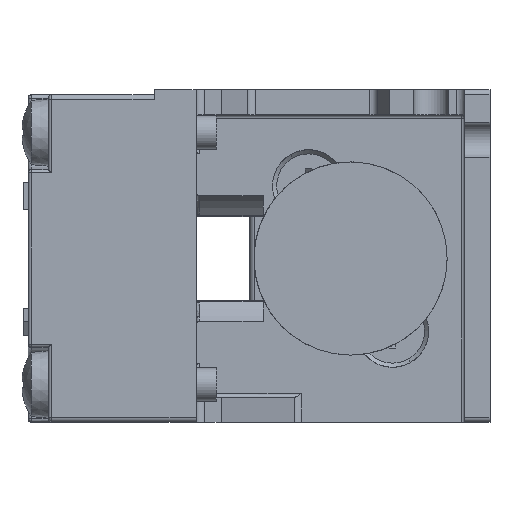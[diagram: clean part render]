
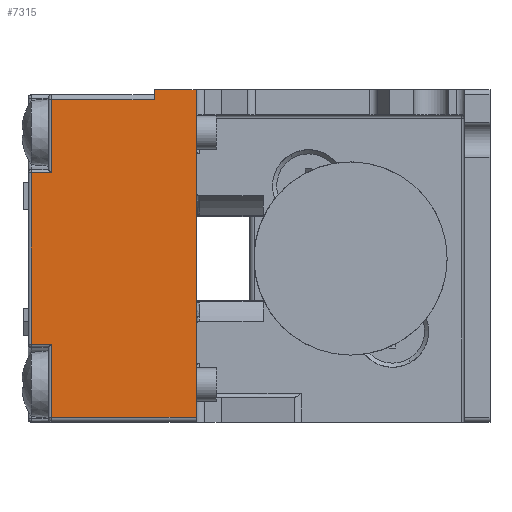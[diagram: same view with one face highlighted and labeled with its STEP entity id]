
A CAD part, left-side view. The second image highlights one B-rep face of the part: STEP entity #7315.
In plain terms, the highlighted planar face has unit normal (-1, 0, 0).
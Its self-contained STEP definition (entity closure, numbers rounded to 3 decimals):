
#273=DIRECTION('',(0.,1.,0.));
#274=VECTOR('',#273,6.1);
#275=CARTESIAN_POINT('',(-9.75,11.7,9.45));
#276=LINE('',#275,#274);
#281=DIRECTION('',(0.,0.,1.));
#282=VECTOR('',#281,0.6);
#283=CARTESIAN_POINT('',(-9.75,11.7,9.45));
#284=LINE('',#283,#282);
#285=DIRECTION('',(0.,0.,-1.));
#286=VECTOR('',#285,19.5);
#287=CARTESIAN_POINT('',(-9.75,9.2,10.05));
#288=LINE('',#287,#286);
#293=DIRECTION('',(0.,-1.,0.));
#294=VECTOR('',#293,8.6);
#295=CARTESIAN_POINT('',(-9.75,17.8,-9.45));
#296=LINE('',#295,#294);
#632=DIRECTION('',(0.,0.,-1.));
#633=VECTOR('',#632,10.2);
#634=CARTESIAN_POINT('',(-9.75,19.,5.1));
#635=LINE('',#634,#633);
#1655=DIRECTION('',(0.,1.,0.));
#1656=VECTOR('',#1655,2.5);
#1657=CARTESIAN_POINT('',(-9.75,9.2,10.05));
#1658=LINE('',#1657,#1656);
#4437=DIRECTION('',(0.,0.,-1.));
#4438=VECTOR('',#4437,4.35);
#4439=CARTESIAN_POINT('',(-9.75,17.8,9.45));
#4440=LINE('',#4439,#4438);
#4445=DIRECTION('',(0.,1.,0.));
#4446=VECTOR('',#4445,1.2);
#4447=CARTESIAN_POINT('',(-9.75,17.8,5.1));
#4448=LINE('',#4447,#4446);
#4821=DIRECTION('',(0.,-1.,0.));
#4822=VECTOR('',#4821,1.2);
#4823=CARTESIAN_POINT('',(-9.75,19.,-5.1));
#4824=LINE('',#4823,#4822);
#4829=DIRECTION('',(0.,0.,-1.));
#4830=VECTOR('',#4829,4.35);
#4831=CARTESIAN_POINT('',(-9.75,17.8,-5.1));
#4832=LINE('',#4831,#4830);
#5797=CARTESIAN_POINT('',(-9.75,11.7,9.45));
#5798=CARTESIAN_POINT('',(-9.75,17.8,9.45));
#5799=VERTEX_POINT('',#5797);
#5800=VERTEX_POINT('',#5798);
#5801=CARTESIAN_POINT('',(-9.75,17.8,-9.45));
#5802=CARTESIAN_POINT('',(-9.75,9.2,-9.45));
#5803=VERTEX_POINT('',#5801);
#5804=VERTEX_POINT('',#5802);
#5805=CARTESIAN_POINT('',(-9.75,17.8,-5.1));
#5806=VERTEX_POINT('',#5805);
#5807=CARTESIAN_POINT('',(-9.75,19.,-5.1));
#5808=VERTEX_POINT('',#5807);
#5809=CARTESIAN_POINT('',(-9.75,19.,5.1));
#5810=VERTEX_POINT('',#5809);
#5811=CARTESIAN_POINT('',(-9.75,17.8,5.1));
#5812=VERTEX_POINT('',#5811);
#5813=CARTESIAN_POINT('',(-9.75,11.7,10.05));
#5814=VERTEX_POINT('',#5813);
#5815=CARTESIAN_POINT('',(-9.75,9.2,10.05));
#5816=VERTEX_POINT('',#5815);
#7289=CARTESIAN_POINT('',(-9.75,12.2,-9.75));
#7290=DIRECTION('',(-1.,0.,0.));
#7291=DIRECTION('',(0.,-1.,0.));
#7292=AXIS2_PLACEMENT_3D('',#7289,#7290,#7291);
#7293=PLANE('',#7292);
#7295=ORIENTED_EDGE('',*,*,#7294,.F.);
#7297=ORIENTED_EDGE('',*,*,#7296,.F.);
#7299=ORIENTED_EDGE('',*,*,#7298,.F.);
#7301=ORIENTED_EDGE('',*,*,#7300,.F.);
#7303=ORIENTED_EDGE('',*,*,#7302,.F.);
#7305=ORIENTED_EDGE('',*,*,#7304,.F.);
#7306=ORIENTED_EDGE('',*,*,#7279,.F.);
#7308=ORIENTED_EDGE('',*,*,#7307,.T.);
#7310=ORIENTED_EDGE('',*,*,#7309,.F.);
#7312=ORIENTED_EDGE('',*,*,#7311,.T.);
#7313=EDGE_LOOP('',(#7295,#7297,#7299,#7301,#7303,#7305,#7306,#7308,#7310,
#7312));
#7314=FACE_OUTER_BOUND('',#7313,.F.);
#7279=EDGE_CURVE('',#5799,#5800,#276,.T.);
#7294=EDGE_CURVE('',#5803,#5804,#296,.T.);
#7296=EDGE_CURVE('',#5806,#5803,#4832,.T.);
#7298=EDGE_CURVE('',#5808,#5806,#4824,.T.);
#7300=EDGE_CURVE('',#5810,#5808,#635,.T.);
#7302=EDGE_CURVE('',#5812,#5810,#4448,.T.);
#7304=EDGE_CURVE('',#5800,#5812,#4440,.T.);
#7307=EDGE_CURVE('',#5799,#5814,#284,.T.);
#7309=EDGE_CURVE('',#5816,#5814,#1658,.T.);
#7311=EDGE_CURVE('',#5816,#5804,#288,.T.);
#7315=ADVANCED_FACE('',(#7314),#7293,.T.);
